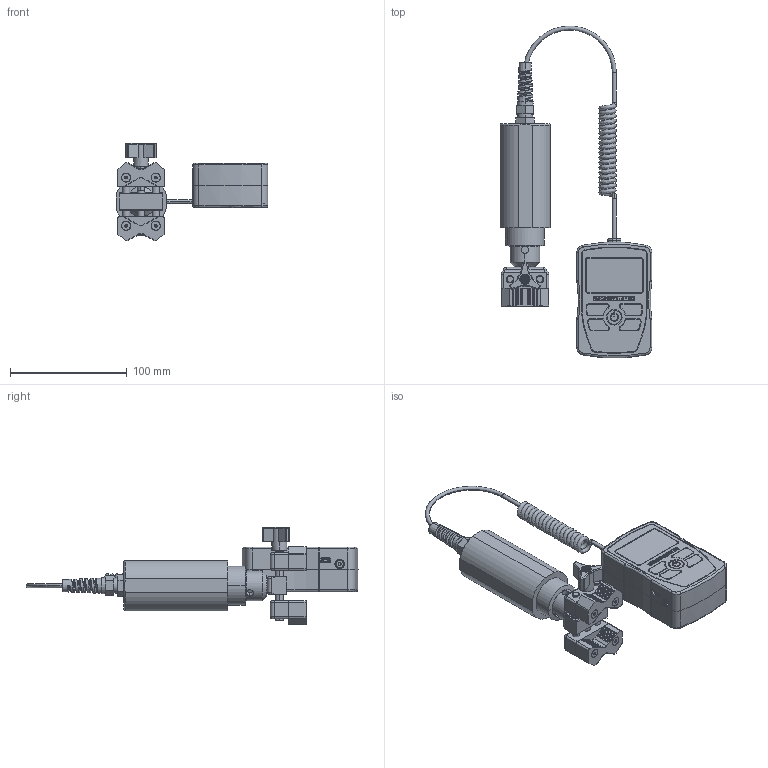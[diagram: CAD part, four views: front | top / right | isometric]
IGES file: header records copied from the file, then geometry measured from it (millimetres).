
Global section: file name: No Iges File Name specified; native system: Autodesk Inventor 2010; preprocessor: AutoDesk Inventor Iges Exporter R2010; author: mlampen; date: 20170601.103542; units: inch
Bounding box: 129.78 x 283.86 x 83.13 mm (x, y, z)
Volume: 450691.4 mm3; surface area: 82725.2 mm2
Topology: 9 solids, 9 shells, 1532 faces, 3810 edges, 2417 vertices
Faces by surface type: plane 717, revolution 321, cylinder 240, bspline 136, torus 57, cone 55, sphere 6
